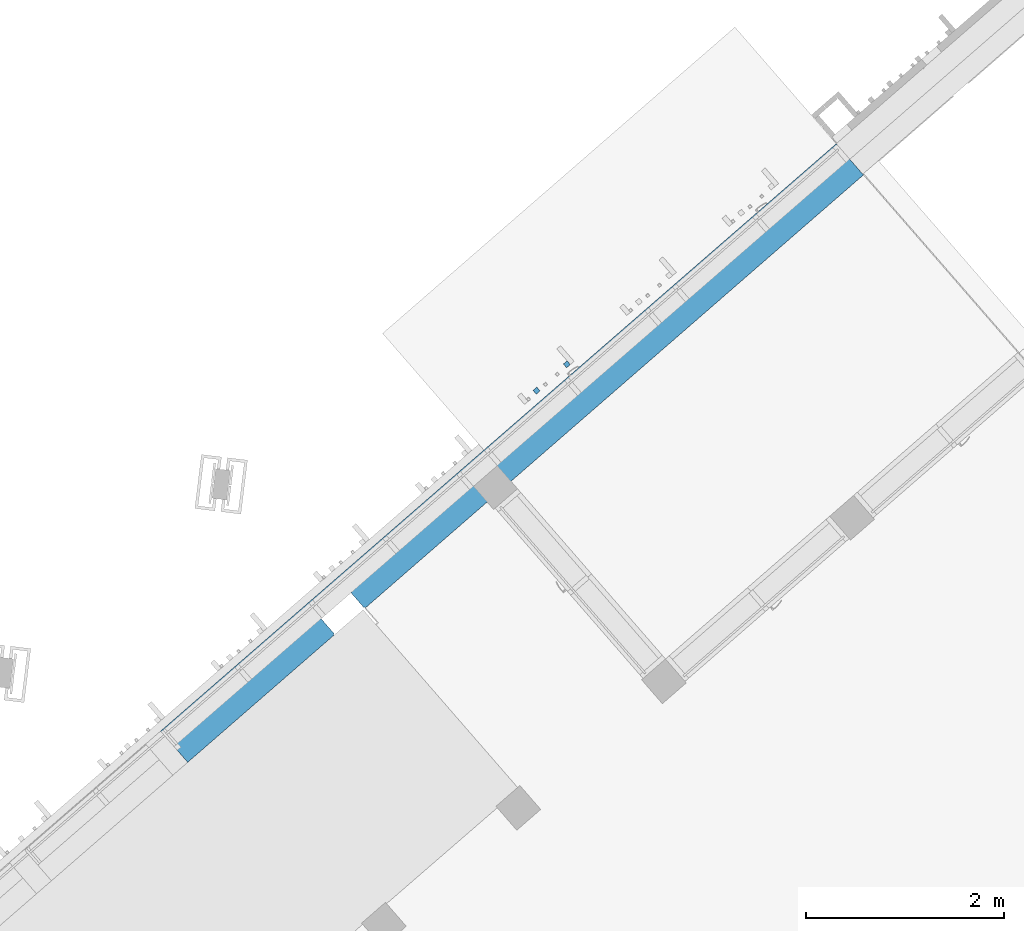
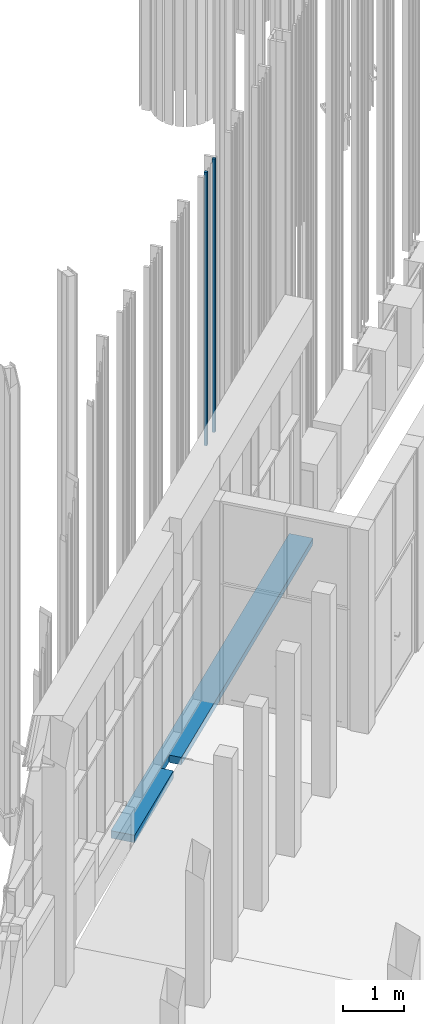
# One storey, part 221 of 390: 3 walls.
"""IFC2X3 building model written with IfcOpenShell, lengths in millimetres."""

from ifc_helpers import new_model, entity, si_unit, converted_unit, derived_unit, money_unit, direction, frame, origin_with_axes, place, context, subcontext, project, spatial, faceted_brep, material, material_list, type_object, element, save


model = new_model("IFC2X3")

# Units and contexts
model_context = context("Model", 3, precision=1e-05, world=origin_with_axes(), true_north=direction((0.0, 1.0)))
body_context = subcontext(model_context, "Body", "Model", "MODEL_VIEW")
ifc_project = project(units=[si_unit("LENGTHUNIT", "METRE", prefix="MILLI"), si_unit("AREAUNIT", "SQUARE_METRE"), si_unit("VOLUMEUNIT", "CUBIC_METRE"), converted_unit("PLANEANGLEUNIT", "DEGREE", entity("IfcPlaneAngleMeasure", 0.0174532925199), si_unit("PLANEANGLEUNIT", "RADIAN"), dimensions=[0, 0, 0, 0, 0, 0, 0]), si_unit("SOLIDANGLEUNIT", "STERADIAN"), money_unit("EUR"), converted_unit("TIMEUNIT", "Year", entity("IfcTimeMeasure", 31556926.0), si_unit("TIMEUNIT", "SECOND"), dimensions=[0, 0, 1, 0, 0, 0, 0]), si_unit("MASSUNIT", "GRAM", prefix="KILO"), si_unit("THERMODYNAMICTEMPERATUREUNIT", "DEGREE_CELSIUS"), si_unit("LUMINOUSINTENSITYUNIT", "LUMEN"), si_unit("ENERGYUNIT", "JOULE", prefix="MEGA"), derived_unit("THERMALCONDUCTANCEUNIT", [(si_unit("POWERUNIT", "WATT"), 1), (si_unit("LENGTHUNIT", "METRE"), -1), (si_unit("THERMODYNAMICTEMPERATUREUNIT", "KELVIN"), -1)]), derived_unit("SPECIFICHEATCAPACITYUNIT", [(si_unit("ENERGYUNIT", "JOULE"), 1), (si_unit("MASSUNIT", "GRAM", prefix="KILO"), -1), (si_unit("THERMODYNAMICTEMPERATUREUNIT", "KELVIN"), -1)]), derived_unit("MASSDENSITYUNIT", [(si_unit("MASSUNIT", "GRAM", prefix="KILO"), 1), (si_unit("VOLUMEUNIT", "CUBIC_METRE"), -1)])], contexts=[model_context])

# Site, building, storey
site_placement = place(None, origin_with_axes())
site = spatial("IfcSite", under=ifc_project, at=site_placement, Name="Site", CompositionType="ELEMENT")
building_placement = place(site_placement, origin_with_axes())
building = spatial("IfcBuilding", under=site, at=building_placement, Name="Building", CompositionType="ELEMENT")
storey_placement = place(building_placement, origin_with_axes())
storey = spatial("IfcBuildingStorey", under=building, at=storey_placement, Name="1 korrus", CompositionType="ELEMENT", Elevation=0.0)

# Walls
ifc_material_1 = material(Name="Site specified")
wall_type_1 = type_object("IfcWallType", Name="Puitfassaadi ribistik", PredefinedType="NOTDEFINED")
for number, where, z_axis, x_axis, name in (
    (1, (133591.986476, 86166.1579085, 4355.77285819), (0.0, 0.0, 1.0), (0.754709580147, 0.656059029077, 0.0), "Site specified"),
    (2, (133285.574386, 85899.7979427, 4355.77285819), (0.0, 0.0, 1.0), (0.754709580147, 0.656059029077, 0.0), "Site specified"),
):
    element("IfcWall", number, at=place(storey_placement, frame(where, z_axis=z_axis, x_axis=x_axis)), inside=storey, type_object=wall_type_1, material=ifc_material_1, Name=name, context=body_context, shape_type="Brep", body=[
        faceted_brep([(25.0, 25.0, 5509.22714181), (25.0, 25.0, 0.0), (-25.0, 25.0, 0.0), (-25.0, 25.0, 5509.22714181), (25.0, -25.0, 5509.22714181), (25.0, -25.0, 0.0), (-25.0, -25.0, 0.0), (-25.0, -25.0, 5509.22714181)], [[[0, 1, 2, 3]], [[4, 5, 1, 0]], [[2, 1, 5, 6]], [[3, 2, 6, 7]], [[4, 0, 3, 7]], [[7, 6, 5, 4]]]),
    ])
ifc_material_2 = material(Name="Krohv - Lubjakivi")
ifc_material_3 = material(Name="Raudbetoon - Konstruktsioon")
ifc_material_4 = material(Name="Soojustus - Plastik Kõva")
ifc_material_5 = material(Name="Plaat - Sein")
ifc_material_list = material_list([ifc_material_2, ifc_material_2, ifc_material_3, ifc_material_3, ifc_material_4, ifc_material_4, ifc_material_5])
wall_type_2 = type_object("IfcWallType", Name="VS-05", PredefinedType="NOTDEFINED")
wall_placement = place(storey_placement, frame((136589.517252, 88080.21506, -150.0), z_axis=(0.0, 0.0, 1.0), x_axis=(-0.754709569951, -0.656059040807, 0.0)))
element("IfcWall", 3, at=wall_placement, inside=storey, type_object=wall_type_2, material=ifc_material_list, Name="VS-05", context=body_context, shape_type="Brep", body=[
    faceted_brep([(7089.87880787, 0.0, 2.18824958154e-10), (7089.87880787, 0.0, 150.000199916), (9050.00000692, 0.0, 150.000199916), (9050.00000692, 0.0, 0.0), (7089.87880774, -10.0, 150.000199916), (7089.87880774, -9.99996159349, 2.18824958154e-10), (9050.00000692, -10.0, 150.000199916), (9050.00000692, -10.0, 0.0)], [[[0, 1, 2, 3]], [[4, 1, 0, 5]], [[1, 4, 6, 2]], [[3, 2, 6, 7]], [[5, 0, 3, 7]], [[4, 5, 7, 6]]]),
    faceted_brep([(6669.87880774, -9.99999999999, 150.000199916), (6669.87880787, 0.0, 150.000199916), (0.0, 0.0, 150.000199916), (0.0, -9.99999999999, 150.000199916), (6669.87880787, 0.0, 2.65787392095e-10), (6669.87880774, -9.99995336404, 2.65787392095e-10), (4729.89827416, 0.0, 4.823919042e-10), (4729.89827416, 0.0, 50.0000000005), (0.0, 0.0, 50.0000000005), (0.0, -9.99986169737, 50.0000000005), (4729.89784857, -9.99991535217, 50.0000000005), (4729.89784857, -9.99991535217, 4.823919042e-10)], [[[0, 1, 2, 3]], [[4, 1, 0, 5]], [[1, 4, 6, 7, 8, 2]], [[2, 8, 9, 3]], [[5, 0, 3, 9, 10, 11]], [[4, 5, 11, 6]], [[11, 10, 7, 6]], [[10, 9, 8, 7]]]),
    faceted_brep([(7079.87880774, -10.0, 0.0), (7079.87880774, -10.0, 150.000199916), (9050.00000692, -10.0, 150.000199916), (9050.00000692, -10.0, 0.0), (7079.87880529, -209.999967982, 150.000199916), (7079.87880529, -209.999967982, 0.0), (9050.00000692, -210.0, 150.000199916), (9050.00000692, -210.0, 0.0)], [[[0, 1, 2, 3]], [[4, 1, 0, 5]], [[1, 4, 6, 2]], [[2, 6, 7, 3]], [[5, 0, 3, 7]], [[4, 5, 7, 6]]]),
    faceted_brep([(6679.87880529, -209.999963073, 150.000199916), (6679.87880774, -9.99999999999, 150.000199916), (0.0, -9.99999999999, 150.000199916), (0.0, -210.0, 150.000199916), (6679.87880774, -9.99999999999, 0.0), (6679.87880529, -209.999963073, 0.0), (0.0, -9.99999999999, 0.0), (0.0, -210.0, 0.0)], [[[0, 1, 2, 3]], [[4, 1, 0, 5]], [[1, 4, 6, 2]], [[7, 3, 2, 6]], [[5, 0, 3, 7]], [[4, 5, 7, 6]]]),
    faceted_brep([(7089.87880517, -219.999968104, 150.000199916), (6669.87880517, -219.99996295, 150.000199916), (6669.87880529, -210.0, 150.000199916), (0.0, -210.0, 150.000199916), (0.0, -360.0, 150.000199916), (9050.00000692, -360.0, 150.000199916), (9050.00000692, -210.0, 150.000199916), (7089.87880529, -210.0, 150.000199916), (7089.87880517, -219.999968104, 0.0), (6669.87880517, -219.99996295, 0.0), (6669.87880529, -210.0, 0.0), (0.0, -210.0, 0.0), (0.0, -360.0, 0.0), (9050.00000692, -360.0, 0.0), (9050.00000692, -210.0, 0.0), (7089.87880529, -210.0, 0.0)], [[[0, 1, 2, 3, 4, 5, 6, 7]], [[1, 0, 8, 9]], [[10, 2, 1, 9]], [[2, 10, 11, 3]], [[12, 4, 3, 11]], [[12, 13, 5, 4]], [[6, 5, 13, 14]], [[15, 7, 6, 14]], [[0, 7, 15, 8]], [[8, 15, 14, 13, 12, 11, 10, 9]]]),
    faceted_brep([(0.0, -410.0, 150.000199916), (9050.00000692, -410.0, 150.000199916), (9050.00000692, -360.0, 150.000199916), (0.0, -360.0, 150.000199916), (0.0, -410.0, 0.0), (9050.00000692, -410.0, 0.0), (9050.00000692, -360.0, 0.0), (0.0, -360.0, 0.0)], [[[0, 1, 2, 3]], [[4, 5, 1, 0]], [[2, 1, 5, 6]], [[3, 2, 6, 7]], [[4, 0, 3, 7]], [[7, 6, 5, 4]]]),
    faceted_brep([(0.0, -418.0, 150.000199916), (9050.00000692, -418.0, 150.000199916), (9050.00000692, -410.0, 150.000199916), (0.0, -410.0, 150.000199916), (0.0, -418.0, 0.0), (9050.00000692, -418.0, 0.0), (9050.00000692, -410.0, 0.0), (0.0, -410.0, 0.0)], [[[0, 1, 2, 3]], [[4, 5, 1, 0]], [[2, 1, 5, 6]], [[3, 2, 6, 7]], [[4, 0, 3, 7]], [[7, 6, 5, 4]]]),
])

save(model, "model.ifc")
